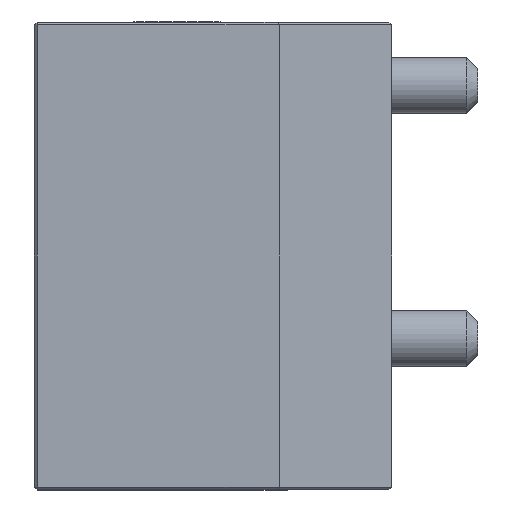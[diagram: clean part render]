
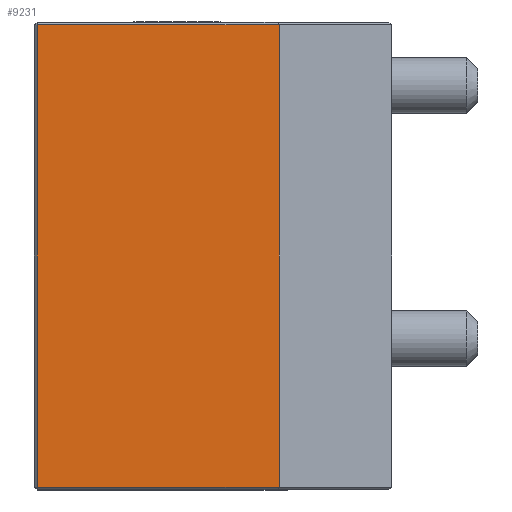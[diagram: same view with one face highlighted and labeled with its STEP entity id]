
A CAD part, left-side view. The second image highlights one B-rep face of the part: STEP entity #9231.
In plain terms, the highlighted planar face has unit normal (-1, 0, 0).
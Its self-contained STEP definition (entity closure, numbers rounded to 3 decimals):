
#17 = DIRECTION ( 'NONE',  ( 0., 0., -1. ) ) ;
#316 = DIRECTION ( 'NONE',  ( 0., 1., 0. ) ) ;
#765 = CARTESIAN_POINT ( 'NONE',  ( -58.265, -65.918, -16.435 ) ) ;
#892 = ORIENTED_EDGE ( 'NONE', *, *, #3108, .F. ) ;
#1541 = EDGE_CURVE ( 'NONE', #1835, #3464, #7735, .T. ) ;
#1764 = EDGE_CURVE ( 'NONE', #9019, #8984, #2912, .T. ) ;
#1835 = VERTEX_POINT ( 'NONE', #6387 ) ;
#2286 = FACE_OUTER_BOUND ( 'NONE', #2995, .T. ) ;
#2459 = VECTOR ( 'NONE', #17, 1000. ) ;
#2672 = CARTESIAN_POINT ( 'NONE',  ( -58.265, -40.718, -16.435 ) ) ;
#2912 = LINE ( 'NONE', #8174, #10150 ) ;
#2995 = EDGE_LOOP ( 'NONE', ( #892, #3310, #6679, #5491 ) ) ;
#3108 = EDGE_CURVE ( 'NONE', #3464, #8984, #5662, .T. ) ;
#3310 = ORIENTED_EDGE ( 'NONE', *, *, #1541, .F. ) ;
#3464 = VERTEX_POINT ( 'NONE', #7424 ) ;
#4625 = EDGE_CURVE ( 'NONE', #9019, #1835, #10060, .T. ) ;
#5491 = ORIENTED_EDGE ( 'NONE', *, *, #1764, .T. ) ;
#5589 = CARTESIAN_POINT ( 'NONE',  ( -58.265, -40.718, 16.435 ) ) ;
#5662 = LINE ( 'NONE', #765, #9578 ) ;
#6387 = CARTESIAN_POINT ( 'NONE',  ( -58.265, -57.918, 16.435 ) ) ;
#6679 = ORIENTED_EDGE ( 'NONE', *, *, #4625, .F. ) ;
#7424 = CARTESIAN_POINT ( 'NONE',  ( -58.265, -57.918, -16.435 ) ) ;
#7557 = CARTESIAN_POINT ( 'NONE',  ( -58.265, -57.918, 16.635 ) ) ;
#7568 = VECTOR ( 'NONE', #9460, 1000. ) ;
#7735 = LINE ( 'NONE', #7557, #2459 ) ;
#8085 = DIRECTION ( 'NONE',  ( 0., 0., -1. ) ) ;
#8174 = CARTESIAN_POINT ( 'NONE',  ( -58.265, -40.718, 16.635 ) ) ;
#8984 = VERTEX_POINT ( 'NONE', #2672 ) ;
#9019 = VERTEX_POINT ( 'NONE', #5589 ) ;
#9090 = CARTESIAN_POINT ( 'NONE',  ( -58.265, -65.918, 16.635 ) ) ;
#9231 = ADVANCED_FACE ( 'NONE', ( #2286 ), #9364, .F. ) ;
#9281 = AXIS2_PLACEMENT_3D ( 'NONE', #9090, #9414, #9457 ) ;
#9364 = PLANE ( 'NONE',  #9281 ) ;
#9414 = DIRECTION ( 'NONE',  ( 1., 0., 0. ) ) ;
#9457 = DIRECTION ( 'NONE',  ( 0., 0., -1. ) ) ;
#9460 = DIRECTION ( 'NONE',  ( 0., -1., 0. ) ) ;
#9578 = VECTOR ( 'NONE', #316, 1000. ) ;
#9729 = CARTESIAN_POINT ( 'NONE',  ( -58.265, -65.918, 16.435 ) ) ;
#10060 = LINE ( 'NONE', #9729, #7568 ) ;
#10150 = VECTOR ( 'NONE', #8085, 1000. ) ;
